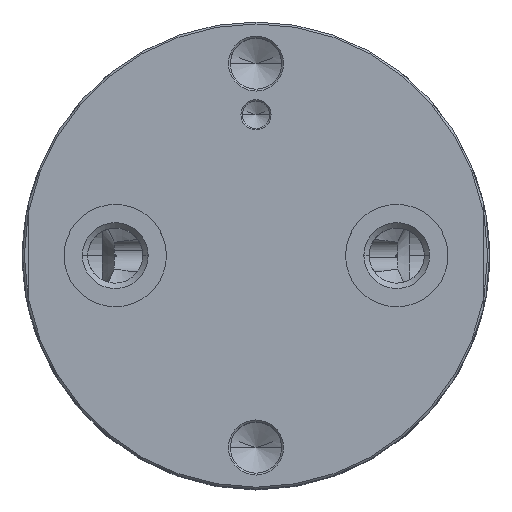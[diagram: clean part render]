
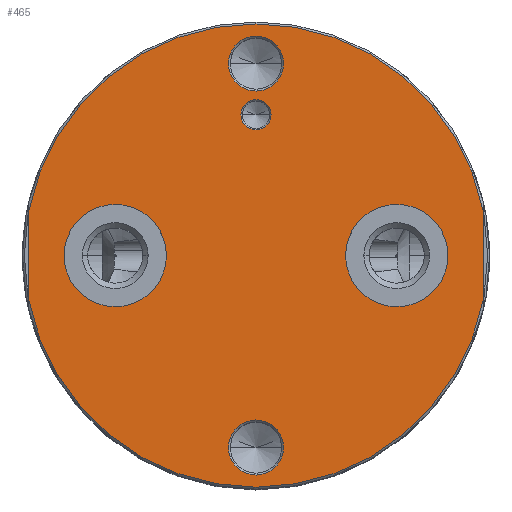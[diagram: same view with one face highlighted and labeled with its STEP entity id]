
A CAD part, top view. The second image highlights one B-rep face of the part: STEP entity #465.
In plain terms, the highlighted planar face has unit normal (0, 0, 1).
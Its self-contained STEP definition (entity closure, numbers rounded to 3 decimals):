
#465=ADVANCED_FACE('NO 5437',(#836,#837,#838,#839,#840,#841),#572,.T.);
#572=PLANE('',#2446);
#616=LINE('',#3537,#738);
#618=LINE('',#3553,#740);
#738=VECTOR('',#2797,1.);
#740=VECTOR('',#2807,1.);
#836=FACE_BOUND('',#901,.T.);
#837=FACE_BOUND('',#902,.T.);
#838=FACE_BOUND('',#903,.T.);
#839=FACE_BOUND('',#904,.T.);
#840=FACE_BOUND('',#905,.T.);
#841=FACE_BOUND('',#906,.T.);
#901=EDGE_LOOP('',(#1206,#1207));
#902=EDGE_LOOP('',(#1208,#1209));
#903=EDGE_LOOP('',(#1210,#1211));
#904=EDGE_LOOP('',(#1212,#1213));
#905=EDGE_LOOP('',(#1214,#1215));
#906=EDGE_LOOP('',(#1216,#1217,#1218,#1219));
#1206=ORIENTED_EDGE('',*,*,#2003,.T.);
#1207=ORIENTED_EDGE('',*,*,#2011,.T.);
#1208=ORIENTED_EDGE('',*,*,#1978,.T.);
#1209=ORIENTED_EDGE('',*,*,#2012,.T.);
#1210=ORIENTED_EDGE('',*,*,#1975,.T.);
#1211=ORIENTED_EDGE('',*,*,#2013,.T.);
#1212=ORIENTED_EDGE('',*,*,#2014,.T.);
#1213=ORIENTED_EDGE('',*,*,#1973,.T.);
#1214=ORIENTED_EDGE('',*,*,#2015,.T.);
#1215=ORIENTED_EDGE('',*,*,#1969,.T.);
#1216=ORIENTED_EDGE('',*,*,#1966,.T.);
#1217=ORIENTED_EDGE('',*,*,#1964,.T.);
#1218=ORIENTED_EDGE('',*,*,#1960,.T.);
#1219=ORIENTED_EDGE('',*,*,#1958,.T.);
#1737=VERTEX_POINT('',#3536);
#1738=VERTEX_POINT('',#3538);
#1739=VERTEX_POINT('',#3545);
#1740=VERTEX_POINT('',#3554);
#1741=VERTEX_POINT('',#3563);
#1742=VERTEX_POINT('',#3565);
#1744=VERTEX_POINT('',#3570);
#1746=VERTEX_POINT('',#3574);
#1747=VERTEX_POINT('',#3578);
#1748=VERTEX_POINT('',#3580);
#1749=VERTEX_POINT('',#3584);
#1750=VERTEX_POINT('',#3586);
#1766=VERTEX_POINT('',#3714);
#1767=VERTEX_POINT('',#3716);
#1958=EDGE_CURVE('NO 4593',#1738,#1737,#616,.T.);
#1960=EDGE_CURVE('NO 4609',#1739,#1738,#2233,.T.);
#1964=EDGE_CURVE('NO 4645',#1740,#1739,#618,.T.);
#1966=EDGE_CURVE('NO 4663',#1737,#1740,#2235,.T.);
#1969=EDGE_CURVE('NO 4687',#1741,#1742,#2236,.T.);
#1973=EDGE_CURVE('NO 4715',#1744,#1746,#2238,.T.);
#1975=EDGE_CURVE('NO 4753',#1748,#1747,#2239,.T.);
#1978=EDGE_CURVE('NO 4775',#1750,#1749,#2240,.T.);
#2003=EDGE_CURVE('NO 5385',#1767,#1766,#2246,.T.);
#2011=EDGE_CURVE('NO 5444',#1766,#1767,#2251,.T.);
#2012=EDGE_CURVE('NO 5471',#1749,#1750,#2252,.T.);
#2013=EDGE_CURVE('NO 5478',#1747,#1748,#2253,.T.);
#2014=EDGE_CURVE('NO 5490',#1746,#1744,#2254,.T.);
#2015=EDGE_CURVE('NO 5497',#1742,#1741,#2255,.T.);
#2233=CIRCLE('',#2407,36.2);
#2235=CIRCLE('',#2411,36.2);
#2236=CIRCLE('',#2413,8.);
#2238=CIRCLE('',#2416,8.);
#2239=CIRCLE('',#2418,4.3);
#2240=CIRCLE('',#2420,4.3);
#2246=CIRCLE('',#2433,2.35);
#2251=CIRCLE('',#2441,2.35);
#2252=CIRCLE('',#2442,4.3);
#2253=CIRCLE('',#2443,4.3);
#2254=CIRCLE('',#2444,8.);
#2255=CIRCLE('',#2445,8.);
#2407=AXIS2_PLACEMENT_3D('',#3544,#2800,#2801);
#2411=AXIS2_PLACEMENT_3D('',#3560,#2810,#2811);
#2413=AXIS2_PLACEMENT_3D('',#3566,#2816,#2817);
#2416=AXIS2_PLACEMENT_3D('',#3575,#2824,#2825);
#2418=AXIS2_PLACEMENT_3D('',#3579,#2829,#2830);
#2420=AXIS2_PLACEMENT_3D('',#3585,#2835,#2836);
#2433=AXIS2_PLACEMENT_3D('',#3715,#2869,#2870);
#2441=AXIS2_PLACEMENT_3D('',#3731,#2888,#2889);
#2442=AXIS2_PLACEMENT_3D('',#3732,#2890,#2891);
#2443=AXIS2_PLACEMENT_3D('',#3733,#2892,#2893);
#2444=AXIS2_PLACEMENT_3D('',#3734,#2894,#2895);
#2445=AXIS2_PLACEMENT_3D('',#3735,#2896,#2897);
#2446=AXIS2_PLACEMENT_3D('',#3736,#2898,#2899);
#2797=DIRECTION('',(0.,1.,0.));
#2800=DIRECTION('',(0.,0.,1.));
#2801=DIRECTION('',(1.,0.,0.));
#2807=DIRECTION('',(0.,-1.,0.));
#2810=DIRECTION('',(0.,0.,1.));
#2811=DIRECTION('',(1.,0.,0.));
#2816=DIRECTION('',(0.,0.,-1.));
#2817=DIRECTION('',(-1.,0.,0.));
#2824=DIRECTION('',(0.,0.,-1.));
#2825=DIRECTION('',(-1.,0.,0.));
#2829=DIRECTION('',(0.,0.,-1.));
#2830=DIRECTION('',(1.,0.,0.));
#2835=DIRECTION('',(0.,0.,-1.));
#2836=DIRECTION('',(1.,0.,0.));
#2869=DIRECTION('',(0.,0.,-1.));
#2870=DIRECTION('',(1.,0.,0.));
#2888=DIRECTION('',(0.,0.,-1.));
#2889=DIRECTION('',(1.,0.,0.));
#2890=DIRECTION('',(0.,0.,-1.));
#2891=DIRECTION('',(1.,0.,0.));
#2892=DIRECTION('',(0.,0.,-1.));
#2893=DIRECTION('',(1.,0.,0.));
#2894=DIRECTION('',(0.,0.,-1.));
#2895=DIRECTION('',(-1.,0.,0.));
#2896=DIRECTION('',(0.,0.,-1.));
#2897=DIRECTION('',(-1.,0.,0.));
#2898=DIRECTION('',(0.,0.,1.));
#2899=DIRECTION('',(-1.,0.,0.));
#3536=CARTESIAN_POINT('',(35.5,7.084,81.));
#3537=CARTESIAN_POINT('',(35.5,0.,81.));
#3538=CARTESIAN_POINT('',(35.5,-7.084,81.));
#3544=CARTESIAN_POINT('',(0.,0.,81.));
#3545=CARTESIAN_POINT('',(-35.5,-7.084,81.));
#3553=CARTESIAN_POINT('',(-35.5,0.,81.));
#3554=CARTESIAN_POINT('',(-35.5,7.084,81.));
#3560=CARTESIAN_POINT('',(0.,0.,81.));
#3563=CARTESIAN_POINT('',(-14.,0.,81.));
#3565=CARTESIAN_POINT('',(-30.,0.,81.));
#3566=CARTESIAN_POINT('',(-22.,0.,81.));
#3570=CARTESIAN_POINT('',(30.,0.,81.));
#3574=CARTESIAN_POINT('',(14.,0.,81.));
#3575=CARTESIAN_POINT('',(22.,0.,81.));
#3578=CARTESIAN_POINT('',(-4.3,-30.,81.));
#3579=CARTESIAN_POINT('',(0.,-30.,81.));
#3580=CARTESIAN_POINT('',(4.3,-30.,81.));
#3584=CARTESIAN_POINT('',(-4.3,30.,81.));
#3585=CARTESIAN_POINT('',(0.,30.,81.));
#3586=CARTESIAN_POINT('',(4.3,30.,81.));
#3714=CARTESIAN_POINT('',(-2.35,22.,81.));
#3715=CARTESIAN_POINT('',(0.,22.,81.));
#3716=CARTESIAN_POINT('',(2.35,22.,81.));
#3731=CARTESIAN_POINT('',(0.,22.,81.));
#3732=CARTESIAN_POINT('',(0.,30.,81.));
#3733=CARTESIAN_POINT('',(0.,-30.,81.));
#3734=CARTESIAN_POINT('',(22.,0.,81.));
#3735=CARTESIAN_POINT('',(-22.,0.,81.));
#3736=CARTESIAN_POINT('',(0.,0.,81.));
